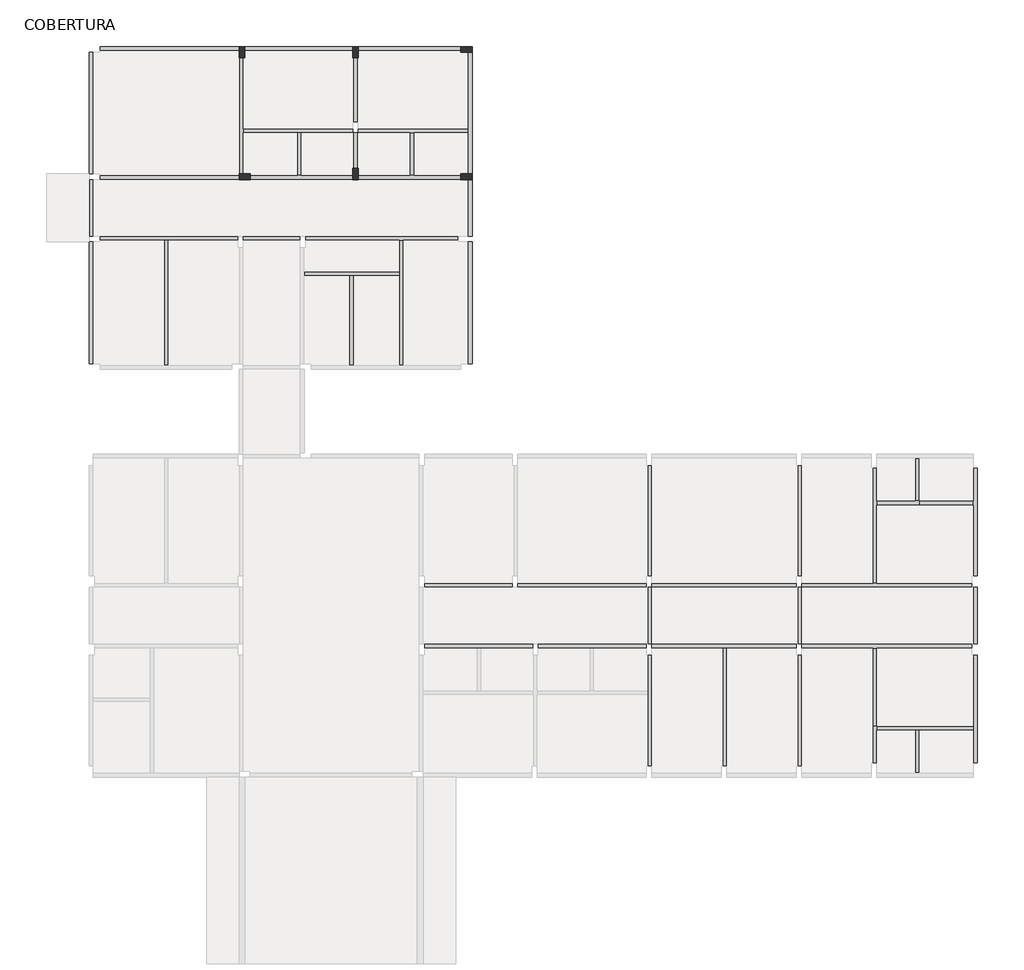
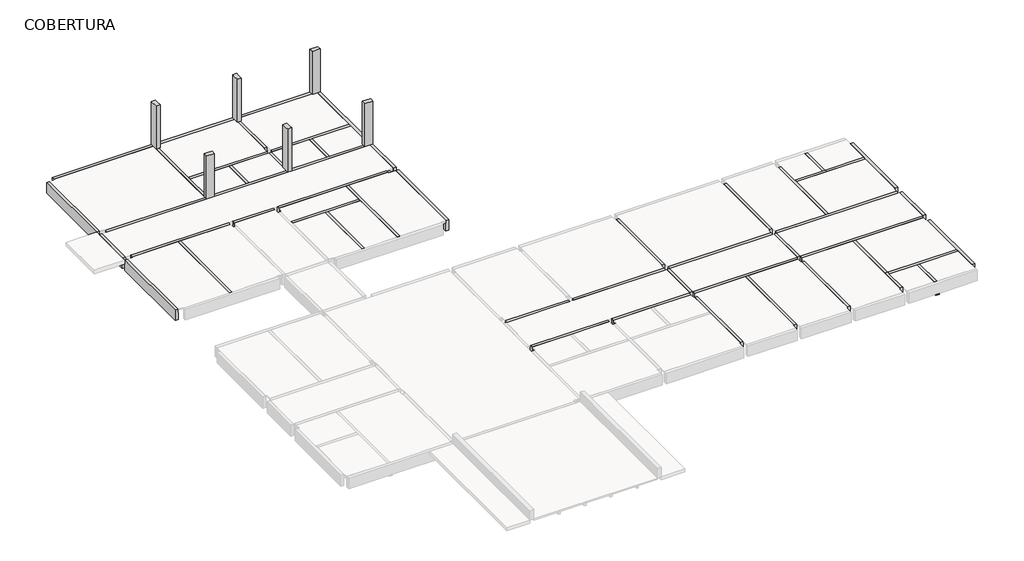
# One storey, part 5 of 5: 28 beams, 6 columns.
"""IFC4 building model written with IfcOpenShell, lengths in millimetres."""

from ifc_helpers import new_model, si_unit, origin, place, context, project, spatial, faceted_brep, element, save

model = new_model("IFC4")

# Units and contexts
model_context = context("Model", 3, world=origin())
ifc_project = project(units=[si_unit("LENGTHUNIT", "METRE", prefix="MILLI")], contexts=[model_context])

# Site, building, storey
site = spatial("IfcSite", under=ifc_project)
building = spatial("IfcBuilding", under=site)
storey = spatial("IfcBuildingStorey", under=building, Name="COBERTURA", Elevation=4800.0)

# Beams
placement = place(None, origin())
element("IfcBeam", 1, ObjectType="TQS - Viga retangular : 15,0 x 50,0", at=placement, inside=storey, context=model_context, shape_type="Brep", body=[
    faceted_brep([(9490.0, 25400.0, 4800.0), (9340.0, 25400.0, 4800.0), (9340.0, 23150.0, 4800.0), (9490.0, 23150.0, 4800.0), (9490.0, 25400.0, 4300.0), (9490.0, 25400.0, 4650.0), (9490.0, 25400.0, 4750.0), (9490.0, 23150.0, 4750.0), (9490.0, 23150.0, 4650.0), (9490.0, 23150.0, 4300.0), (9340.0, 25400.0, 4300.0), (9340.0, 23150.0, 4300.0), (9340.0, 25400.0, 4750.0), (9340.0, 25400.0, 4650.0), (9340.0, 23150.0, 4650.0), (9340.0, 23150.0, 4750.0)], [[[0, 1, 2, 3]], [[4, 5, 6, 0, 3, 7, 8, 9]], [[10, 4, 9, 11]], [[1, 12, 13, 10, 11, 14, 15, 2]], [[1, 0, 6, 5, 4, 10, 13, 12]], [[3, 2, 15, 14, 11, 9, 8, 7]]]),
    faceted_brep([(9490.0, 21500.0, 4800.0), (9340.0, 21500.0, 4800.0), (9340.0, 21500.0, 4750.0), (9340.0, 21500.0, 4650.0), (9340.0, 21500.0, 4300.0), (9490.0, 21500.0, 4300.0), (9490.0, 21500.0, 4650.0), (9490.0, 21500.0, 4750.0), (9340.0, 22750.0, 4800.0), (9490.0, 22750.0, 4800.0), (9490.0, 22750.0, 4750.0), (9490.0, 22750.0, 4300.0), (9340.0, 22750.0, 4300.0), (9340.0, 22750.0, 4750.0)], [[[0, 1, 2, 3, 4, 5, 6, 7]], [[8, 9, 10, 11, 12, 13]], [[1, 0, 9, 8]], [[0, 7, 6, 5, 11, 10, 9]], [[5, 4, 12, 11]], [[4, 3, 2, 1, 8, 13, 12]]]),
])
element("IfcBeam", 2, ObjectType="TQS - Viga retangular : 15,0 x 50,0", at=placement, inside=storey, context=model_context, shape_type="Brep", body=[
    faceted_brep([(7350.0, 21250.0, 4800.0), (7500.0, 21250.0, 4800.0), (7500.0, 22750.0, 4800.0), (7350.0, 22750.0, 4800.0), (7500.0, 21250.0, 4750.0), (7500.0, 21250.0, 4300.0), (7500.0, 22750.0, 4300.0), (7500.0, 22750.0, 4750.0), (7350.0, 21250.0, 4300.0), (7350.0, 22750.0, 4300.0), (7350.0, 21250.0, 4750.0), (7350.0, 22750.0, 4750.0)], [[[0, 1, 2, 3]], [[1, 4, 5, 6, 7, 2]], [[5, 8, 9, 6]], [[8, 10, 0, 3, 11, 9]], [[1, 0, 10, 8, 5, 4]], [[3, 2, 7, 6, 9, 11]]]),
])
element("IfcBeam", 3, ObjectType="TQS - Viga retangular : 15,0 x 50,0", at=placement, inside=storey, context=model_context, shape_type="Brep", body=[
    faceted_brep([(11330.0, 21250.0, 4800.0), (11480.0, 21250.0, 4800.0), (11480.0, 22750.0, 4800.0), (11330.0, 22750.0, 4800.0), (11480.0, 21250.0, 4750.0), (11480.0, 21250.0, 4300.0), (11480.0, 22750.0, 4300.0), (11480.0, 22750.0, 4750.0), (11330.0, 21250.0, 4300.0), (11330.0, 22750.0, 4300.0), (11330.0, 21250.0, 4750.0), (11330.0, 22750.0, 4750.0)], [[[0, 1, 2, 3]], [[1, 4, 5, 6, 7, 2]], [[5, 8, 9, 6]], [[8, 10, 0, 3, 11, 9]], [[1, 0, 10, 8, 5, 4]], [[3, 2, 7, 6, 9, 11]]]),
])
element("IfcBeam", 4, ObjectType="TQS - Viga retangular : 15,0 x 50,0", at=placement, inside=storey, context=model_context, shape_type="Brep", body=[
    faceted_brep([(25030.0, 400.0, 4800.0), (25180.0, 400.0, 4800.0), (25180.0, 4300.0, 4800.0), (25030.0, 4300.0, 4800.0), (25180.0, 400.0, 4300.0), (25180.0, 4300.0, 4300.0), (25030.0, 400.0, 4300.0), (25030.0, 4300.0, 4300.0), (25030.0, 400.0, 4650.0), (25030.0, 400.0, 4750.0), (25030.0, 4300.0, 4750.0), (25030.0, 4300.0, 4650.0)], [[[0, 1, 2, 3]], [[1, 4, 5, 2]], [[4, 6, 7, 5]], [[6, 8, 9, 0, 3, 10, 11, 7]], [[1, 0, 9, 8, 6, 4]], [[3, 2, 5, 7, 11, 10]]]),
    faceted_brep([(25030.0, 11000.0, 4800.0), (25180.0, 11000.0, 4800.0), (25180.0, 11000.0, 4300.0), (25030.0, 11000.0, 4300.0), (25030.0, 11000.0, 4650.0), (25030.0, 11000.0, 4750.0), (25030.0, 7100.0, 4800.0), (25180.0, 7100.0, 4800.0), (25180.0, 7100.0, 4300.0), (25030.0, 7100.0, 4300.0), (25030.0, 7100.0, 4650.0), (25030.0, 7100.0, 4750.0)], [[[0, 1, 2, 3, 4, 5]], [[1, 0, 6, 7]], [[2, 1, 7, 8]], [[3, 2, 8, 9]], [[0, 5, 4, 3, 9, 10, 11, 6]], [[7, 6, 11, 10, 9, 8]]]),
    faceted_brep([(25180.0, 4700.0, 4800.0), (25030.0, 4700.0, 4800.0), (25030.0, 4700.0, 4750.0), (25030.0, 4700.0, 4300.0), (25180.0, 4700.0, 4300.0), (25180.0, 4700.0, 4750.0), (25030.0, 6700.0, 4800.0), (25180.0, 6700.0, 4800.0), (25180.0, 6700.0, 4750.0), (25180.0, 6700.0, 4300.0), (25030.0, 6700.0, 4300.0), (25030.0, 6700.0, 4750.0)], [[[0, 1, 2, 3, 4, 5]], [[6, 7, 8, 9, 10, 11]], [[1, 0, 7, 6]], [[0, 5, 4, 9, 8, 7]], [[4, 3, 10, 9]], [[3, 2, 1, 6, 11, 10]]]),
])
element("IfcBeam", 5, ObjectType="TQS - Viga retangular : 15,0 x 50,0", at=placement, inside=storey, context=model_context, shape_type="Brep", body=[
    faceted_brep([(2800.0, 18950.0, 4800.0), (2650.0, 18950.0, 4800.0), (2650.0, 14550.0, 4800.0), (2800.0, 14550.0, 4800.0), (2800.0, 18950.0, 4300.0), (2800.0, 18950.0, 4650.0), (2800.0, 18950.0, 4750.0), (2800.0, 14550.0, 4750.0), (2800.0, 14550.0, 4300.0), (2650.0, 18950.0, 4300.0), (2650.0, 14550.0, 4300.0), (2650.0, 18950.0, 4750.0), (2650.0, 18950.0, 4650.0), (2650.0, 14550.0, 4750.0)], [[[0, 1, 2, 3]], [[4, 5, 6, 0, 3, 7, 8]], [[9, 4, 8, 10]], [[1, 11, 12, 9, 10, 13, 2]], [[1, 0, 6, 5, 4, 9, 12, 11]], [[3, 2, 13, 10, 8, 7]]]),
])
element("IfcBeam", 6, ObjectType="TQS - Viga retangular : 15,0 x 55,0", at=placement, inside=storey, context=model_context, shape_type="Brep", body=[
    faceted_brep([(13130.0, 25650.0, 4800.0), (13130.0, 25800.0, 4800.0), (9515.0, 25800.0, 4800.0), (9515.0, 25650.0, 4800.0), (13130.0, 25650.0, 4250.0), (13130.0, 25650.0, 4650.0), (13130.0, 25650.0, 4750.0), (9515.0, 25650.0, 4750.0), (9515.0, 25650.0, 4650.0), (9515.0, 25650.0, 4250.0), (13130.0, 25800.0, 4250.0), (9515.0, 25800.0, 4250.0)], [[[0, 1, 2, 3]], [[4, 5, 6, 0, 3, 7, 8, 9]], [[10, 4, 9, 11]], [[1, 10, 11, 2]], [[1, 0, 6, 5, 4, 10]], [[3, 2, 11, 9, 8, 7]]]),
    faceted_brep([(5300.0, 25800.0, 4800.0), (5300.0, 25650.0, 4800.0), (5300.0, 25650.0, 4750.0), (5300.0, 25650.0, 4250.0), (5300.0, 25800.0, 4250.0), (400.0, 25800.0, 4800.0), (400.0, 25650.0, 4800.0), (400.0, 25650.0, 4750.0), (400.0, 25650.0, 4650.0), (400.0, 25650.0, 4250.0), (400.0, 25800.0, 4250.0)], [[[0, 1, 2, 3, 4]], [[1, 0, 5, 6]], [[3, 2, 1, 6, 7, 8, 9]], [[4, 3, 9, 10]], [[0, 4, 10, 5]], [[6, 5, 10, 9, 8, 7]]]),
    faceted_brep([(5500.0, 25650.0, 4800.0), (5500.0, 25800.0, 4800.0), (5500.0, 25800.0, 4250.0), (5500.0, 25650.0, 4250.0), (5500.0, 25650.0, 4750.0), (9315.0, 25800.0, 4800.0), (9315.0, 25650.0, 4800.0), (9315.0, 25650.0, 4750.0), (9315.0, 25650.0, 4650.0), (9315.0, 25650.0, 4250.0), (9315.0, 25800.0, 4250.0)], [[[0, 1, 2, 3, 4]], [[5, 6, 7, 8, 9, 10]], [[1, 0, 6, 5]], [[0, 4, 3, 9, 8, 7, 6]], [[3, 2, 10, 9]], [[2, 1, 5, 10]]]),
])
element("IfcBeam", 7, ObjectType="TQS - Viga retangular : 15,0 x 55,0", at=placement, inside=storey, context=model_context, shape_type="Brep", body=[
    faceted_brep([(13130.0, 21100.0, 4800.0), (13130.0, 21250.0, 4800.0), (11480.0, 21250.0, 4800.0), (11330.0, 21250.0, 4800.0), (9515.0, 21250.0, 4800.0), (9515.0, 21100.0, 4800.0), (13130.0, 21100.0, 4250.0), (9515.0, 21100.0, 4250.0), (13130.0, 21250.0, 4250.0), (9515.0, 21250.0, 4250.0), (13130.0, 21250.0, 4750.0), (9515.0, 21250.0, 4750.0)], [[[0, 1, 2, 3, 4, 5]], [[6, 0, 5, 7]], [[8, 6, 7, 9]], [[1, 10, 8, 9, 11, 4, 3, 2]], [[1, 0, 6, 8, 10]], [[5, 4, 11, 9, 7]]]),
    faceted_brep([(400.0, 21100.0, 4800.0), (400.0, 21250.0, 4800.0), (400.0, 21250.0, 4750.0), (400.0, 21250.0, 4650.0), (400.0, 21250.0, 4250.0), (400.0, 21100.0, 4250.0), (5300.0, 21250.0, 4800.0), (5300.0, 21100.0, 4800.0), (5300.0, 21100.0, 4250.0), (5300.0, 21250.0, 4250.0), (5300.0, 21250.0, 4750.0)], [[[0, 1, 2, 3, 4, 5]], [[6, 7, 8, 9, 10]], [[1, 0, 7, 6]], [[0, 5, 8, 7]], [[5, 4, 9, 8]], [[4, 3, 2, 1, 6, 10, 9]]]),
    faceted_brep([(5700.0, 21100.0, 4800.0), (5700.0, 21250.0, 4800.0), (5700.0, 21250.0, 4750.0), (5700.0, 21250.0, 4250.0), (5700.0, 21100.0, 4250.0), (9315.0, 21250.0, 4800.0), (9315.0, 21100.0, 4800.0), (9315.0, 21100.0, 4250.0), (9315.0, 21250.0, 4250.0), (9315.0, 21250.0, 4750.0), (7500.0, 21250.0, 4800.0), (7350.0, 21250.0, 4800.0)], [[[0, 1, 2, 3, 4]], [[5, 6, 7, 8, 9]], [[1, 0, 6, 5, 10, 11]], [[0, 4, 7, 6]], [[4, 3, 8, 7]], [[3, 2, 1, 11, 10, 5, 9, 8]]]),
])
element("IfcBeam", 8, ObjectType="TQS - Viga retangular : 15,0 x 55,0", at=placement, inside=storey, context=model_context, shape_type="Brep", body=[
    faceted_brep([(5300.0, 21300.0, 4800.0), (5450.0, 21300.0, 4800.0), (5450.0, 22750.0, 4800.0), (5450.0, 22900.0, 4800.0), (5450.0, 25400.0, 4800.0), (5300.0, 25400.0, 4800.0), (5450.0, 21300.0, 4750.0), (5450.0, 21300.0, 4650.0), (5450.0, 21300.0, 4250.0), (5450.0, 22750.0, 4250.0), (5450.0, 22900.0, 4250.0), (5450.0, 25400.0, 4250.0), (5450.0, 25400.0, 4650.0), (5450.0, 25400.0, 4750.0), (5300.0, 21300.0, 4250.0), (5300.0, 25400.0, 4250.0)], [[[0, 1, 2, 3, 4, 5]], [[1, 6, 7, 8, 9, 10, 11, 12, 13, 4, 3, 2]], [[8, 14, 15, 11, 10, 9]], [[14, 0, 5, 15]], [[1, 0, 14, 8, 7, 6]], [[5, 4, 13, 12, 11, 15]]]),
])
element("IfcBeam", 9, ObjectType="TQS - Viga retangular : 15,0 x 55,0", at=placement, inside=storey, context=model_context, shape_type="Brep", body=[
    faceted_brep([(13380.0, 21300.0, 4800.0), (13530.0, 21300.0, 4800.0), (13530.0, 25600.0, 4800.0), (13380.0, 25600.0, 4800.0), (13380.0, 22900.0, 4800.0), (13380.0, 22750.0, 4800.0), (13530.0, 21300.0, 4250.0), (13530.0, 25600.0, 4250.0), (13380.0, 21300.0, 4250.0), (13380.0, 22750.0, 4250.0), (13380.0, 22900.0, 4250.0), (13380.0, 25600.0, 4250.0), (13380.0, 21300.0, 4650.0), (13380.0, 21300.0, 4750.0), (13380.0, 25600.0, 4750.0)], [[[0, 1, 2, 3, 4, 5]], [[1, 6, 7, 2]], [[6, 8, 9, 10, 11, 7]], [[8, 12, 13, 0, 5, 4, 3, 14, 11, 10, 9]], [[1, 0, 13, 12, 8, 6]], [[3, 2, 7, 11, 14]]]),
    faceted_brep([(13530.0, 14600.0, 4800.0), (13380.0, 14600.0, 4800.0), (13380.0, 14600.0, 4750.0), (13380.0, 14600.0, 4650.0), (13380.0, 14600.0, 4250.0), (13530.0, 14600.0, 4250.0), (13380.0, 18900.0, 4800.0), (13530.0, 18900.0, 4800.0), (13530.0, 18900.0, 4250.0), (13380.0, 18900.0, 4250.0), (13380.0, 18900.0, 4650.0), (13380.0, 18900.0, 4750.0)], [[[0, 1, 2, 3, 4, 5]], [[6, 7, 8, 9, 10, 11]], [[1, 0, 7, 6]], [[0, 5, 8, 7]], [[5, 4, 9, 8]], [[4, 3, 2, 1, 6, 11, 10, 9]]]),
    faceted_brep([(13530.0, 19100.0, 4800.0), (13380.0, 19100.0, 4800.0), (13380.0, 19100.0, 4750.0), (13380.0, 19100.0, 4650.0), (13380.0, 19100.0, 4250.0), (13530.0, 19100.0, 4250.0), (13380.0, 21100.0, 4800.0), (13530.0, 21100.0, 4800.0), (13530.0, 21100.0, 4250.0), (13380.0, 21100.0, 4250.0), (13380.0, 21100.0, 4650.0), (13380.0, 21100.0, 4750.0)], [[[0, 1, 2, 3, 4, 5]], [[6, 7, 8, 9, 10, 11]], [[1, 0, 7, 6]], [[0, 5, 8, 7]], [[5, 4, 9, 8]], [[4, 3, 2, 1, 6, 11, 10, 9]]]),
])
element("IfcBeam", 10, ObjectType="TQS - Viga retangular : 15,0 x 55,0", at=placement, inside=storey, context=model_context, shape_type="Brep", body=[
    faceted_brep([(9315.0, 22750.0, 4800.0), (9315.0, 22900.0, 4800.0), (5450.0, 22900.0, 4800.0), (5450.0, 22750.0, 4800.0), (7350.0, 22750.0, 4800.0), (7500.0, 22750.0, 4800.0), (9315.0, 22750.0, 4250.0), (5450.0, 22750.0, 4750.0), (5450.0, 22750.0, 4650.0), (5450.0, 22750.0, 4250.0), (9315.0, 22900.0, 4250.0), (5450.0, 22900.0, 4250.0), (9315.0, 22900.0, 4750.0), (9315.0, 22900.0, 4650.0), (5450.0, 22900.0, 4750.0)], [[[0, 1, 2, 3, 4, 5]], [[6, 0, 5, 4, 3, 7, 8, 9]], [[10, 6, 9, 11]], [[1, 12, 13, 10, 11, 14, 2]], [[1, 0, 6, 10, 13, 12]], [[3, 2, 14, 11, 9, 8, 7]]]),
    faceted_brep([(9515.0, 22750.0, 4800.0), (9515.0, 22900.0, 4800.0), (9515.0, 22900.0, 4750.0), (9515.0, 22900.0, 4650.0), (9515.0, 22900.0, 4250.0), (9515.0, 22750.0, 4250.0), (11330.0, 22750.0, 4800.0), (11480.0, 22750.0, 4800.0), (13380.0, 22750.0, 4800.0), (13380.0, 22900.0, 4800.0), (13380.0, 22750.0, 4250.0), (13380.0, 22750.0, 4650.0), (13380.0, 22750.0, 4750.0), (13380.0, 22900.0, 4250.0), (13380.0, 22900.0, 4750.0)], [[[0, 1, 2, 3, 4, 5]], [[1, 0, 6, 7, 8, 9]], [[0, 5, 10, 11, 12, 8, 7, 6]], [[5, 4, 13, 10]], [[4, 3, 2, 1, 9, 14, 13]], [[9, 8, 12, 11, 10, 13, 14]]]),
])
element("IfcBeam", 11, ObjectType="TQS - Viga retangular : 15,0 x 55,0", at=placement, inside=storey, context=model_context, shape_type="Brep", body=[
    faceted_brep([(7650.0, 19100.0, 4800.0), (7650.0, 18950.0, 4800.0), (10950.0, 18950.0, 4800.0), (11100.0, 18950.0, 4800.0), (13030.0, 18950.0, 4800.0), (13030.0, 19100.0, 4800.0), (7650.0, 18950.0, 4750.0), (7650.0, 18950.0, 4250.0), (10950.0, 18950.0, 4250.0), (11100.0, 18950.0, 4250.0), (13030.0, 18950.0, 4250.0), (13030.0, 18950.0, 4650.0), (13030.0, 18950.0, 4750.0), (7650.0, 19100.0, 4250.0), (13030.0, 19100.0, 4250.0)], [[[0, 1, 2, 3, 4, 5]], [[1, 6, 7, 8, 9, 10, 11, 12, 4, 3, 2]], [[7, 13, 14, 10, 9, 8]], [[13, 0, 5, 14]], [[1, 0, 13, 7, 6]], [[5, 4, 12, 11, 10, 14]]]),
    faceted_brep([(400.0, 18950.0, 4800.0), (400.0, 19100.0, 4800.0), (400.0, 19100.0, 4250.0), (400.0, 18950.0, 4250.0), (400.0, 18950.0, 4650.0), (400.0, 18950.0, 4750.0), (5250.0, 19100.0, 4800.0), (5250.0, 18950.0, 4800.0), (5250.0, 18950.0, 4750.0), (5250.0, 18950.0, 4650.0), (5250.0, 18950.0, 4250.0), (5250.0, 19100.0, 4250.0), (2650.0, 18950.0, 4800.0), (2800.0, 18950.0, 4800.0)], [[[0, 1, 2, 3, 4, 5]], [[6, 7, 8, 9, 10, 11]], [[1, 0, 12, 13, 7, 6]], [[0, 5, 4, 3, 10, 9, 8, 7, 13, 12]], [[3, 2, 11, 10]], [[2, 1, 6, 11]]]),
    faceted_brep([(5450.0, 18950.0, 4800.0), (5450.0, 19100.0, 4800.0), (5450.0, 19100.0, 4750.0), (5450.0, 19100.0, 4650.0), (5450.0, 19100.0, 4250.0), (5450.0, 18950.0, 4250.0), (5450.0, 18950.0, 4650.0), (5450.0, 18950.0, 4750.0), (7450.0, 19100.0, 4800.0), (7450.0, 18950.0, 4800.0), (7450.0, 18950.0, 4750.0), (7450.0, 18950.0, 4650.0), (7450.0, 18950.0, 4250.0), (7450.0, 19100.0, 4250.0)], [[[0, 1, 2, 3, 4, 5, 6, 7]], [[8, 9, 10, 11, 12, 13]], [[1, 0, 9, 8]], [[0, 7, 6, 5, 12, 11, 10, 9]], [[5, 4, 13, 12]], [[4, 3, 2, 1, 8, 13]]]),
])
element("IfcBeam", 12, ObjectType="TQS - Viga retangular : 15,0 x 55,0", at=placement, inside=storey, context=model_context, shape_type="Brep", body=[
    faceted_brep([(19730.0, 400.0, 4800.0), (19880.0, 400.0, 4800.0), (19880.0, 4300.0, 4800.0), (19730.0, 4300.0, 4800.0), (19730.0, 3050.0, 4800.0), (19730.0, 2900.0, 4800.0), (19880.0, 400.0, 4250.0), (19880.0, 4300.0, 4250.0), (19730.0, 400.0, 4250.0), (19730.0, 2900.0, 4250.0), (19730.0, 3050.0, 4250.0), (19730.0, 4300.0, 4250.0), (19730.0, 400.0, 4650.0), (19730.0, 400.0, 4750.0), (19730.0, 4300.0, 4750.0), (19730.0, 4300.0, 4650.0)], [[[0, 1, 2, 3, 4, 5]], [[1, 6, 7, 2]], [[6, 8, 9, 10, 11, 7]], [[8, 12, 13, 0, 5, 4, 3, 14, 15, 11, 10, 9]], [[1, 0, 13, 12, 8, 6]], [[3, 2, 7, 11, 15, 14]]]),
    faceted_brep([(19730.0, 11000.0, 4800.0), (19880.0, 11000.0, 4800.0), (19880.0, 11000.0, 4250.0), (19730.0, 11000.0, 4250.0), (19730.0, 11000.0, 4650.0), (19730.0, 11000.0, 4750.0), (19730.0, 7100.0, 4800.0), (19880.0, 7100.0, 4800.0), (19880.0, 7100.0, 4250.0), (19730.0, 7100.0, 4250.0), (19730.0, 7100.0, 4650.0), (19730.0, 7100.0, 4750.0)], [[[0, 1, 2, 3, 4, 5]], [[1, 0, 6, 7]], [[2, 1, 7, 8]], [[3, 2, 8, 9]], [[0, 5, 4, 3, 9, 10, 11, 6]], [[7, 6, 11, 10, 9, 8]]]),
    faceted_brep([(19880.0, 4700.0, 4800.0), (19730.0, 4700.0, 4800.0), (19730.0, 4700.0, 4750.0), (19730.0, 4700.0, 4650.0), (19730.0, 4700.0, 4250.0), (19880.0, 4700.0, 4250.0), (19880.0, 4700.0, 4750.0), (19730.0, 6700.0, 4800.0), (19880.0, 6700.0, 4800.0), (19880.0, 6700.0, 4750.0), (19880.0, 6700.0, 4250.0), (19730.0, 6700.0, 4250.0), (19730.0, 6700.0, 4650.0), (19730.0, 6700.0, 4750.0)], [[[0, 1, 2, 3, 4, 5, 6]], [[7, 8, 9, 10, 11, 12, 13]], [[1, 0, 8, 7]], [[0, 6, 5, 10, 9, 8]], [[5, 4, 11, 10]], [[4, 3, 2, 1, 7, 13, 12, 11]]]),
])
element("IfcBeam", 13, ObjectType="TQS - Viga retangular : 15,0 x 55,0", at=placement, inside=storey, context=model_context, shape_type="Brep", body=[
    faceted_brep([(11100.0, 18950.0, 4800.0), (10950.0, 18950.0, 4800.0), (10950.0, 17850.0, 4800.0), (10950.0, 17700.0, 4800.0), (10950.0, 14550.0, 4800.0), (11100.0, 14550.0, 4800.0), (11100.0, 18950.0, 4250.0), (11100.0, 18950.0, 4650.0), (11100.0, 18950.0, 4750.0), (11100.0, 14550.0, 4750.0), (11100.0, 14550.0, 4250.0), (10950.0, 18950.0, 4250.0), (10950.0, 14550.0, 4250.0), (10950.0, 17700.0, 4250.0), (10950.0, 17850.0, 4250.0), (10950.0, 18950.0, 4750.0), (10950.0, 14550.0, 4750.0)], [[[0, 1, 2, 3, 4, 5]], [[6, 7, 8, 0, 5, 9, 10]], [[11, 6, 10, 12, 13, 14]], [[1, 15, 11, 14, 13, 12, 16, 4, 3, 2]], [[1, 0, 8, 7, 6, 11, 15]], [[5, 4, 16, 12, 10, 9]]]),
])
element("IfcBeam", 14, ObjectType="TQS - Viga retangular : 15,0 x 55,0", at=placement, inside=storey, context=model_context, shape_type="Brep", body=[
    faceted_brep([(7600.0, 17850.0, 4800.0), (7600.0, 17700.0, 4800.0), (9200.0, 17700.0, 4800.0), (9350.0, 17700.0, 4800.0), (10950.0, 17700.0, 4800.0), (10950.0, 17850.0, 4800.0), (7600.0, 17700.0, 4750.0), (7600.0, 17700.0, 4250.0), (9200.0, 17700.0, 4250.0), (9350.0, 17700.0, 4250.0), (10950.0, 17700.0, 4250.0), (10950.0, 17700.0, 4750.0), (7600.0, 17850.0, 4250.0), (10950.0, 17850.0, 4250.0), (7600.0, 17850.0, 4650.0), (7600.0, 17850.0, 4750.0), (10950.0, 17850.0, 4750.0)], [[[0, 1, 2, 3, 4, 5]], [[1, 6, 7, 8, 9, 10, 11, 4, 3, 2]], [[7, 12, 13, 10, 9, 8]], [[12, 14, 15, 0, 5, 16, 13]], [[1, 0, 15, 14, 12, 7, 6]], [[5, 4, 11, 10, 13, 16]]]),
])
element("IfcBeam", 15, ObjectType="TQS - Viga retangular : 15,0 x 55,0", at=placement, inside=storey, context=model_context, shape_type="Brep", body=[
    faceted_brep([(9200.0, 14550.0, 4800.0), (9350.0, 14550.0, 4800.0), (9350.0, 17700.0, 4800.0), (9200.0, 17700.0, 4800.0), (9350.0, 14550.0, 4750.0), (9350.0, 14550.0, 4250.0), (9350.0, 17700.0, 4250.0), (9350.0, 17700.0, 4750.0), (9200.0, 14550.0, 4250.0), (9200.0, 17700.0, 4250.0), (9200.0, 14550.0, 4750.0), (9200.0, 17700.0, 4750.0)], [[[0, 1, 2, 3]], [[1, 4, 5, 6, 7, 2]], [[5, 8, 9, 6]], [[8, 10, 0, 3, 11, 9]], [[1, 0, 10, 8, 5, 4]], [[3, 2, 7, 6, 9, 11]]]),
])
element("IfcBeam", 16, ObjectType="TQS - Viga retangular : 15,0 x 55,0", at=placement, inside=storey, context=model_context, shape_type="Brep", body=[
    faceted_brep([(29330.0, 11250.0, 4800.0), (29180.0, 11250.0, 4800.0), (29180.0, 9750.0, 4800.0), (29330.0, 9750.0, 4800.0), (29330.0, 11250.0, 4250.0), (29330.0, 11250.0, 4650.0), (29330.0, 11250.0, 4750.0), (29330.0, 9750.0, 4750.0), (29330.0, 9750.0, 4250.0), (29180.0, 11250.0, 4250.0), (29180.0, 9750.0, 4250.0), (29180.0, 11250.0, 4750.0), (29180.0, 11250.0, 4650.0), (29180.0, 9750.0, 4650.0), (29180.0, 9750.0, 4750.0)], [[[0, 1, 2, 3]], [[4, 5, 6, 0, 3, 7, 8]], [[9, 4, 8, 10]], [[1, 11, 12, 9, 10, 13, 14, 2]], [[1, 0, 6, 5, 4, 9, 12, 11]], [[3, 2, 14, 13, 10, 8, 7]]]),
])
element("IfcBeam", 17, ObjectType="TQS - Viga retangular : 15,0 x 55,0", at=placement, inside=storey, context=model_context, shape_type="Brep", body=[
    faceted_brep([(0.0, 21300.0, 4800.0), (150.0, 21300.0, 4800.0), (150.0, 25600.0, 4800.0), (0.0, 25600.0, 4800.0), (150.0, 21300.0, 4750.0), (150.0, 21300.0, 4650.0), (150.0, 21300.0, 4250.0), (150.0, 25600.0, 4250.0), (150.0, 25600.0, 4750.0), (0.0, 21300.0, 4250.0), (0.0, 25600.0, 4250.0)], [[[0, 1, 2, 3]], [[1, 4, 5, 6, 7, 8, 2]], [[6, 9, 10, 7]], [[9, 0, 3, 10]], [[1, 0, 9, 6, 5, 4]], [[3, 2, 8, 7, 10]]]),
    faceted_brep([(150.0, 14600.0, 4800.0), (0.0, 14600.0, 4800.0), (0.0, 14600.0, 4250.0), (150.0, 14600.0, 4250.0), (150.0, 14600.0, 4650.0), (150.0, 14600.0, 4750.0), (0.0, 18900.0, 4800.0), (150.0, 18900.0, 4800.0), (150.0, 18900.0, 4750.0), (150.0, 18900.0, 4650.0), (150.0, 18900.0, 4250.0), (0.0, 18900.0, 4250.0)], [[[0, 1, 2, 3, 4, 5]], [[6, 7, 8, 9, 10, 11]], [[1, 0, 7, 6]], [[0, 5, 4, 3, 10, 9, 8, 7]], [[3, 2, 11, 10]], [[2, 1, 6, 11]]]),
    faceted_brep([(150.0, 19100.0, 4800.0), (0.0, 19100.0, 4800.0), (0.0, 19100.0, 4250.0), (150.0, 19100.0, 4250.0), (150.0, 19100.0, 4750.0), (0.0, 21100.0, 4800.0), (150.0, 21100.0, 4800.0), (150.0, 21100.0, 4750.0), (150.0, 21100.0, 4250.0), (0.0, 21100.0, 4250.0)], [[[0, 1, 2, 3, 4]], [[5, 6, 7, 8, 9]], [[1, 0, 6, 5]], [[0, 4, 3, 8, 7, 6]], [[3, 2, 9, 8]], [[2, 1, 5, 9]]]),
])
element("IfcBeam", 18, ObjectType="TQS - Viga retangular : 15,0 x 60,0", at=placement, inside=storey, context=model_context, shape_type="Brep", body=[
    faceted_brep([(11850.0, 4700.0, 4800.0), (11850.0, 4550.0, 4800.0), (13700.0, 4550.0, 4800.0), (13850.0, 4550.0, 4800.0), (15665.0, 4550.0, 4800.0), (15665.0, 4700.0, 4800.0), (11850.0, 4550.0, 4750.0), (11850.0, 4550.0, 4200.0), (15665.0, 4550.0, 4200.0), (15665.0, 4550.0, 4750.0), (11850.0, 4700.0, 4200.0), (15665.0, 4700.0, 4200.0)], [[[0, 1, 2, 3, 4, 5]], [[1, 6, 7, 8, 9, 4, 3, 2]], [[7, 10, 11, 8]], [[10, 0, 5, 11]], [[1, 0, 10, 7, 6]], [[5, 4, 9, 8, 11]]]),
    faceted_brep([(31180.0, 4700.0, 4800.0), (31180.0, 4550.0, 4800.0), (31180.0, 4550.0, 4750.0), (31180.0, 4550.0, 4200.0), (31180.0, 4700.0, 4200.0), (25180.0, 4550.0, 4800.0), (25180.0, 4700.0, 4800.0), (25180.0, 4700.0, 4750.0), (25180.0, 4700.0, 4200.0), (25180.0, 4550.0, 4200.0), (25180.0, 4550.0, 4650.0), (25180.0, 4550.0, 4750.0), (27680.0, 4550.0, 4800.0), (27830.0, 4550.0, 4800.0), (27680.0, 4550.0, 4200.0), (27830.0, 4550.0, 4200.0)], [[[0, 1, 2, 3, 4]], [[5, 6, 7, 8, 9, 10, 11]], [[1, 0, 6, 5, 12, 13]], [[3, 2, 1, 13, 12, 5, 11, 10, 9, 14, 15]], [[4, 3, 15, 14, 9, 8]], [[0, 4, 8, 7, 6]]]),
    faceted_brep([(15865.0, 4550.0, 4800.0), (15865.0, 4700.0, 4800.0), (15865.0, 4700.0, 4200.0), (15865.0, 4550.0, 4200.0), (15865.0, 4550.0, 4750.0), (19680.0, 4700.0, 4800.0), (19680.0, 4550.0, 4800.0), (19680.0, 4550.0, 4750.0), (19680.0, 4550.0, 4200.0), (19680.0, 4700.0, 4200.0), (17680.0, 4550.0, 4800.0), (17830.0, 4550.0, 4800.0)], [[[0, 1, 2, 3, 4]], [[5, 6, 7, 8, 9]], [[1, 0, 10, 11, 6, 5]], [[0, 4, 3, 8, 7, 6, 11, 10]], [[3, 2, 9, 8]], [[2, 1, 5, 9]]]),
    faceted_brep([(19880.0, 4700.0, 4800.0), (19880.0, 4550.0, 4800.0), (22380.0, 4550.0, 4800.0), (22530.0, 4550.0, 4800.0), (24980.0, 4550.0, 4800.0), (24980.0, 4700.0, 4800.0), (19880.0, 4550.0, 4750.0), (19880.0, 4550.0, 4650.0), (19880.0, 4550.0, 4200.0), (22380.0, 4550.0, 4200.0), (22530.0, 4550.0, 4200.0), (24980.0, 4550.0, 4200.0), (24980.0, 4550.0, 4650.0), (24980.0, 4550.0, 4750.0), (19880.0, 4700.0, 4200.0), (24980.0, 4700.0, 4200.0), (19880.0, 4700.0, 4750.0)], [[[0, 1, 2, 3, 4, 5]], [[1, 6, 7, 8, 9, 10, 11, 12, 13, 4, 3, 2]], [[8, 14, 15, 11, 10, 9]], [[14, 16, 0, 5, 15]], [[1, 0, 16, 14, 8, 7, 6]], [[5, 4, 13, 12, 11, 15]]]),
])
element("IfcBeam", 19, ObjectType="TQS - Viga retangular : 15,0 x 60,0", at=placement, inside=storey, context=model_context, shape_type="Brep", body=[
    faceted_brep([(11850.0, 6850.0, 4800.0), (11850.0, 6700.0, 4800.0), (14950.0, 6700.0, 4800.0), (14950.0, 6850.0, 4800.0), (11850.0, 6700.0, 4200.0), (14950.0, 6700.0, 4200.0), (11850.0, 6850.0, 4200.0), (14950.0, 6850.0, 4200.0), (11850.0, 6850.0, 4750.0), (14950.0, 6850.0, 4750.0)], [[[0, 1, 2, 3]], [[1, 4, 5, 2]], [[4, 6, 7, 5]], [[6, 8, 0, 3, 9, 7]], [[1, 0, 8, 6, 4]], [[3, 2, 5, 7, 9]]]),
    faceted_brep([(31180.0, 6850.0, 4800.0), (31180.0, 6700.0, 4800.0), (31180.0, 6700.0, 4200.0), (31180.0, 6850.0, 4200.0), (31180.0, 6850.0, 4750.0), (25180.0, 6700.0, 4800.0), (25180.0, 6850.0, 4800.0), (25180.0, 6850.0, 4750.0), (25180.0, 6850.0, 4200.0), (25180.0, 6700.0, 4200.0), (25180.0, 6700.0, 4750.0), (27830.0, 6850.0, 4800.0), (27680.0, 6850.0, 4800.0), (27680.0, 6850.0, 4200.0), (27830.0, 6850.0, 4200.0)], [[[0, 1, 2, 3, 4]], [[5, 6, 7, 8, 9, 10]], [[1, 0, 11, 12, 6, 5]], [[2, 1, 5, 10, 9]], [[3, 2, 9, 8, 13, 14]], [[0, 4, 3, 14, 13, 8, 7, 6, 12, 11]]]),
    faceted_brep([(24980.0, 6850.0, 4800.0), (24980.0, 6700.0, 4800.0), (24980.0, 6700.0, 4200.0), (24980.0, 6850.0, 4200.0), (24980.0, 6850.0, 4650.0), (24980.0, 6850.0, 4750.0), (19880.0, 6700.0, 4800.0), (19880.0, 6850.0, 4800.0), (19880.0, 6850.0, 4750.0), (19880.0, 6850.0, 4200.0), (19880.0, 6700.0, 4200.0), (19880.0, 6700.0, 4750.0)], [[[0, 1, 2, 3, 4, 5]], [[6, 7, 8, 9, 10, 11]], [[1, 0, 7, 6]], [[2, 1, 6, 11, 10]], [[3, 2, 10, 9]], [[0, 5, 4, 3, 9, 8, 7]]]),
    faceted_brep([(19680.0, 6850.0, 4800.0), (19680.0, 6700.0, 4800.0), (19680.0, 6700.0, 4200.0), (19680.0, 6850.0, 4200.0), (19680.0, 6850.0, 4750.0), (15150.0, 6700.0, 4800.0), (15150.0, 6850.0, 4800.0), (15150.0, 6850.0, 4750.0), (15150.0, 6850.0, 4200.0), (15150.0, 6700.0, 4200.0)], [[[0, 1, 2, 3, 4]], [[5, 6, 7, 8, 9]], [[1, 0, 6, 5]], [[2, 1, 5, 9]], [[3, 2, 9, 8]], [[0, 4, 3, 8, 7, 6]]]),
])
element("IfcBeam", 20, ObjectType="TQS - Viga retangular : 15,0 x 60,0", at=placement, inside=storey, context=model_context, shape_type="Brep", body=[
    faceted_brep([(31380.0, 10900.0, 4800.0), (31230.0, 10900.0, 4800.0), (31230.0, 9750.0, 4800.0), (31230.0, 9600.0, 4800.0), (31230.0, 7100.0, 4800.0), (31380.0, 7100.0, 4800.0), (31380.0, 10900.0, 4200.0), (31380.0, 7100.0, 4200.0), (31230.0, 10900.0, 4200.0), (31230.0, 7100.0, 4200.0), (31230.0, 9600.0, 4200.0), (31230.0, 9750.0, 4200.0), (31230.0, 7100.0, 4650.0), (31230.0, 7100.0, 4750.0)], [[[0, 1, 2, 3, 4, 5]], [[6, 0, 5, 7]], [[8, 6, 7, 9, 10, 11]], [[1, 8, 11, 10, 9, 12, 13, 4, 3, 2]], [[1, 0, 6, 8]], [[5, 4, 13, 12, 9, 7]]]),
    faceted_brep([(31380.0, 500.0, 4800.0), (31230.0, 500.0, 4800.0), (31230.0, 500.0, 4200.0), (31380.0, 500.0, 4200.0), (31230.0, 4300.0, 4800.0), (31380.0, 4300.0, 4800.0), (31380.0, 4300.0, 4200.0), (31230.0, 4300.0, 4200.0), (31230.0, 4300.0, 4650.0), (31230.0, 4300.0, 4750.0), (31230.0, 1800.0, 4800.0), (31230.0, 1650.0, 4800.0), (31230.0, 1650.0, 4200.0), (31230.0, 1800.0, 4200.0)], [[[0, 1, 2, 3]], [[4, 5, 6, 7, 8, 9]], [[1, 0, 5, 4, 10, 11]], [[0, 3, 6, 5]], [[3, 2, 12, 13, 7, 6]], [[2, 1, 11, 10, 4, 9, 8, 7, 13, 12]]]),
    faceted_brep([(31380.0, 4700.0, 4800.0), (31230.0, 4700.0, 4800.0), (31230.0, 4700.0, 4750.0), (31230.0, 4700.0, 4200.0), (31380.0, 4700.0, 4200.0), (31230.0, 6700.0, 4800.0), (31380.0, 6700.0, 4800.0), (31380.0, 6700.0, 4200.0), (31230.0, 6700.0, 4200.0), (31230.0, 6700.0, 4750.0)], [[[0, 1, 2, 3, 4]], [[5, 6, 7, 8, 9]], [[1, 0, 6, 5]], [[0, 4, 7, 6]], [[4, 3, 8, 7]], [[3, 2, 1, 5, 9, 8]]]),
])
element("IfcBeam", 21, ObjectType="TQS - Viga retangular : 15,0 x 60,0", at=placement, inside=storey, context=model_context, shape_type="Brep", body=[
    faceted_brep([(22380.0, 400.0, 4800.0), (22530.0, 400.0, 4800.0), (22530.0, 4550.0, 4800.0), (22380.0, 4550.0, 4800.0), (22530.0, 400.0, 4200.0), (22530.0, 4550.0, 4200.0), (22530.0, 4550.0, 4650.0), (22530.0, 4550.0, 4750.0), (22380.0, 400.0, 4200.0), (22380.0, 4550.0, 4200.0), (22380.0, 400.0, 4650.0), (22380.0, 400.0, 4750.0), (22380.0, 4550.0, 4750.0), (22380.0, 4550.0, 4650.0)], [[[0, 1, 2, 3]], [[1, 4, 5, 6, 7, 2]], [[4, 8, 9, 5]], [[8, 10, 11, 0, 3, 12, 13, 9]], [[3, 2, 7, 6, 5, 9, 13, 12]], [[0, 11, 10, 8, 4, 1]]]),
])
element("IfcBeam", 22, ObjectType="TQS - Viga retangular : 15,0 x 60,0", at=placement, inside=storey, context=model_context, shape_type="Brep", body=[
    faceted_brep([(27680.0, 500.0, 4800.0), (27830.0, 500.0, 4800.0), (27830.0, 1650.0, 4800.0), (27830.0, 1800.0, 4800.0), (27680.0, 1800.0, 4800.0), (27830.0, 500.0, 4200.0), (27830.0, 1650.0, 4200.0), (27830.0, 1800.0, 4200.0), (27680.0, 500.0, 4200.0), (27680.0, 1800.0, 4200.0), (27680.0, 500.0, 4650.0), (27680.0, 500.0, 4750.0)], [[[0, 1, 2, 3, 4]], [[1, 5, 6, 7, 3, 2]], [[5, 8, 9, 7, 6]], [[8, 10, 11, 0, 4, 9]], [[0, 11, 10, 8, 5, 1]], [[4, 3, 7, 9]]]),
])
element("IfcBeam", 23, ObjectType="TQS - Viga retangular : 15,0 x 60,0", at=placement, inside=storey, context=model_context, shape_type="Brep", body=[
    faceted_brep([(27830.0, 4550.0, 4800.0), (27680.0, 4550.0, 4800.0), (27680.0, 1800.0, 4800.0), (27830.0, 1800.0, 4800.0), (27830.0, 4550.0, 4200.0), (27830.0, 4550.0, 4650.0), (27830.0, 4550.0, 4750.0), (27830.0, 1800.0, 4750.0), (27830.0, 1800.0, 4650.0), (27830.0, 1800.0, 4200.0), (27680.0, 4550.0, 4200.0), (27680.0, 1800.0, 4200.0), (27680.0, 4550.0, 4750.0), (27680.0, 4550.0, 4650.0)], [[[0, 1, 2, 3]], [[4, 5, 6, 0, 3, 7, 8, 9]], [[10, 4, 9, 11]], [[1, 12, 13, 10, 11, 2]], [[1, 0, 6, 5, 4, 10, 13, 12]], [[3, 2, 11, 9, 8, 7]]]),
])
element("IfcBeam", 24, ObjectType="TQS - Viga retangular : 15,0 x 60,0", at=placement, inside=storey, context=model_context, shape_type="Brep", body=[
    faceted_brep([(29180.0, 150.0, 4800.0), (29330.0, 150.0, 4800.0), (29330.0, 1650.0, 4800.0), (29180.0, 1650.0, 4800.0), (29330.0, 0.0, 4250.0), (29330.0, 0.0, 4200.0), (29330.0, 1650.0, 4200.0), (29330.0, 1650.0, 4750.0), (29330.0, 150.0, 4750.0), (29330.0, 150.0, 4250.0), (29180.0, 0.0, 4200.0), (29180.0, 1650.0, 4200.0), (29180.0, 0.0, 4250.0), (29180.0, 150.0, 4250.0), (29180.0, 150.0, 4750.0), (29180.0, 1650.0, 4750.0)], [[[0, 1, 2, 3]], [[4, 5, 6, 7, 2, 1, 8, 9]], [[5, 10, 11, 6]], [[10, 12, 13, 14, 0, 3, 15, 11]], [[9, 13, 12, 4]], [[13, 9, 8, 1, 0, 14]], [[10, 5, 4, 12]], [[3, 2, 7, 6, 11, 15]]]),
])
element("IfcBeam", 25, ObjectType="TQS - Viga retangular : 15,0 x 60,0", at=placement, inside=storey, context=model_context, shape_type="Brep", body=[
    faceted_brep([(31230.0, 1650.0, 4800.0), (31230.0, 1800.0, 4800.0), (27830.0, 1800.0, 4800.0), (27830.0, 1650.0, 4800.0), (29180.0, 1650.0, 4800.0), (29330.0, 1650.0, 4800.0), (31230.0, 1650.0, 4200.0), (31230.0, 1650.0, 4650.0), (31230.0, 1650.0, 4750.0), (27830.0, 1650.0, 4750.0), (27830.0, 1650.0, 4200.0), (29180.0, 1650.0, 4200.0), (29330.0, 1650.0, 4200.0), (31230.0, 1800.0, 4200.0), (27830.0, 1800.0, 4200.0), (31230.0, 1800.0, 4750.0), (27830.0, 1800.0, 4650.0), (27830.0, 1800.0, 4750.0)], [[[0, 1, 2, 3, 4, 5]], [[6, 7, 8, 0, 5, 4, 3, 9, 10, 11, 12]], [[13, 6, 12, 11, 10, 14]], [[1, 15, 13, 14, 16, 17, 2]], [[1, 0, 8, 7, 6, 13, 15]], [[3, 2, 17, 16, 14, 10, 9]]]),
])
element("IfcBeam", 26, ObjectType="TQS - Viga retangular : 15,0 x 60,0", at=placement, inside=storey, context=model_context, shape_type="Brep", body=[
    faceted_brep([(27830.0, 10900.0, 4800.0), (27680.0, 10900.0, 4800.0), (27680.0, 6850.0, 4800.0), (27830.0, 6850.0, 4800.0), (27830.0, 9600.0, 4800.0), (27830.0, 9750.0, 4800.0), (27830.0, 10900.0, 4200.0), (27830.0, 6850.0, 4750.0), (27830.0, 6850.0, 4200.0), (27830.0, 9600.0, 4200.0), (27830.0, 9750.0, 4200.0), (27680.0, 10900.0, 4200.0), (27680.0, 6850.0, 4200.0), (27680.0, 10900.0, 4750.0), (27680.0, 10900.0, 4650.0), (27680.0, 6850.0, 4650.0), (27680.0, 6850.0, 4750.0)], [[[0, 1, 2, 3, 4, 5]], [[6, 0, 5, 4, 3, 7, 8, 9, 10]], [[11, 6, 10, 9, 8, 12]], [[1, 13, 14, 11, 12, 15, 16, 2]], [[1, 0, 6, 11, 14, 13]], [[3, 2, 16, 15, 12, 8, 7]]]),
])
element("IfcBeam", 27, ObjectType="TQS - Viga retangular : 15,0 x 60,0", at=placement, inside=storey, context=model_context, shape_type="Brep", body=[
    faceted_brep([(29330.0, 9600.0, 4800.0), (29330.0, 9750.0, 4800.0), (29180.0, 9750.0, 4800.0), (27830.0, 9750.0, 4800.0), (27830.0, 9600.0, 4800.0), (29330.0, 9600.0, 4200.0), (27830.0, 9600.0, 4750.0), (27830.0, 9600.0, 4200.0), (29330.0, 9750.0, 4200.0), (27830.0, 9750.0, 4200.0), (29330.0, 9750.0, 4250.0), (27830.0, 9750.0, 4750.0)], [[[0, 1, 2, 3, 4]], [[5, 0, 4, 6, 7]], [[8, 5, 7, 9]], [[1, 10, 8, 9, 11, 3, 2]], [[4, 3, 11, 9, 7, 6]], [[1, 0, 5, 8, 10]]]),
])
element("IfcBeam", 28, ObjectType="TQS - Viga retangular : 15,0 x 60,0", at=placement, inside=storey, context=model_context, shape_type="Brep", body=[
    faceted_brep([(31230.0, 9600.0, 4800.0), (31230.0, 9750.0, 4800.0), (29330.0, 9750.0, 4800.0), (29330.0, 9600.0, 4800.0), (31230.0, 9600.0, 4200.0), (31230.0, 9600.0, 4750.0), (29330.0, 9600.0, 4200.0), (31230.0, 9750.0, 4200.0), (29330.0, 9750.0, 4200.0), (31230.0, 9750.0, 4750.0), (29330.0, 9750.0, 4750.0)], [[[0, 1, 2, 3]], [[4, 5, 0, 3, 6]], [[7, 4, 6, 8]], [[1, 9, 7, 8, 10, 2]], [[1, 0, 5, 4, 7, 9]], [[3, 2, 10, 8, 6]]]),
])

# Columns
element("IfcColumn", 29, ObjectType="TQS - Pilar retangular : 20,0x40,0", at=placement, inside=storey, context=model_context, shape_type="Brep", body=[
    faceted_brep([(5700.0, 21100.0, 4800.0), (5300.0, 21100.0, 4800.0), (5300.0, 21300.0, 4800.0), (5700.0, 21300.0, 4800.0), (5700.0, 21100.0, 7050.0), (5300.0, 21100.0, 7050.0), (5700.0, 21100.0, 6550.0), (5300.0, 21300.0, 7050.0), (5300.0, 21300.0, 6550.0), (5450.0, 21300.0, 7050.0), (5700.0, 21300.0, 7050.0), (5700.0, 21250.0, 7050.0)], [[[0, 1, 2, 3]], [[4, 5, 1, 0, 6]], [[5, 7, 8, 2, 1]], [[7, 9, 10, 3, 2, 8]], [[10, 11, 4, 6, 0, 3]], [[4, 11, 10, 9, 7, 5]]]),
])
element("IfcColumn", 30, ObjectType="TQS - Pilar retangular : 20,0x40,0", at=placement, inside=storey, context=model_context, shape_type="Brep", body=[
    faceted_brep([(13530.0, 21100.0, 4800.0), (13130.0, 21100.0, 4800.0), (13130.0, 21300.0, 4800.0), (13530.0, 21300.0, 4800.0), (13530.0, 21100.0, 7050.0), (13130.0, 21100.0, 7050.0), (13130.0, 21100.0, 6550.0), (13130.0, 21250.0, 7050.0), (13130.0, 21300.0, 7050.0), (13380.0, 21300.0, 7050.0), (13530.0, 21300.0, 7050.0), (13530.0, 21300.0, 6550.0)], [[[0, 1, 2, 3]], [[4, 5, 6, 1, 0]], [[5, 7, 8, 2, 1, 6]], [[8, 9, 10, 11, 3, 2]], [[10, 4, 0, 3, 11]], [[4, 10, 9, 8, 7, 5]]]),
])
element("IfcColumn", 31, ObjectType="TQS - Pilar retangular : 20,0x40,0", at=placement, inside=storey, context=model_context, shape_type="Brep", body=[
    faceted_brep([(9315.0, 21100.0, 4800.0), (9315.0, 21500.0, 4800.0), (9515.0, 21500.0, 4800.0), (9515.0, 21100.0, 4800.0), (9315.0, 21100.0, 7050.0), (9315.0, 21250.0, 7050.0), (9315.0, 21500.0, 7050.0), (9315.0, 21100.0, 6550.0), (9515.0, 21500.0, 7050.0), (9515.0, 21250.0, 7050.0), (9515.0, 21100.0, 7050.0), (9515.0, 21100.0, 6550.0)], [[[0, 1, 2, 3]], [[4, 5, 6, 1, 0, 7]], [[6, 8, 2, 1]], [[8, 9, 10, 11, 3, 2]], [[10, 4, 7, 0, 3, 11]], [[4, 10, 9, 8, 6, 5]]]),
])
element("IfcColumn", 32, ObjectType="TQS - Pilar retangular : 20,0x40,0", at=placement, inside=storey, context=model_context, shape_type="Brep", body=[
    faceted_brep([(5300.0, 25400.0, 4800.0), (5300.0, 25800.0, 4800.0), (5500.0, 25800.0, 4800.0), (5500.0, 25400.0, 4800.0), (5300.0, 25400.0, 7050.0), (5300.0, 25800.0, 7050.0), (5300.0, 25400.0, 6550.0), (5500.0, 25800.0, 7050.0), (5500.0, 25800.0, 6550.0), (5500.0, 25650.0, 7050.0), (5500.0, 25400.0, 7050.0), (5450.0, 25400.0, 7050.0)], [[[0, 1, 2, 3]], [[4, 5, 1, 0, 6]], [[5, 7, 8, 2, 1]], [[7, 9, 10, 3, 2, 8]], [[10, 11, 4, 6, 0, 3]], [[4, 11, 10, 9, 7, 5]]]),
])
element("IfcColumn", 33, ObjectType="TQS - Pilar retangular : 20,0x40,0", at=placement, inside=storey, context=model_context, shape_type="Brep", body=[
    faceted_brep([(13130.0, 25800.0, 4800.0), (13530.0, 25800.0, 4800.0), (13530.0, 25600.0, 4800.0), (13130.0, 25600.0, 4800.0), (13130.0, 25800.0, 7050.0), (13530.0, 25800.0, 7050.0), (13130.0, 25800.0, 6550.0), (13530.0, 25600.0, 7050.0), (13530.0, 25600.0, 6550.0), (13380.0, 25600.0, 7050.0), (13130.0, 25600.0, 7050.0), (13130.0, 25650.0, 7050.0)], [[[0, 1, 2, 3]], [[4, 5, 1, 0, 6]], [[5, 7, 8, 2, 1]], [[7, 9, 10, 3, 2, 8]], [[10, 11, 4, 6, 0, 3]], [[4, 11, 10, 9, 7, 5]]]),
])
element("IfcColumn", 34, ObjectType="TQS - Pilar retangular : 20,0x40,0", at=placement, inside=storey, context=model_context, shape_type="Brep", body=[
    faceted_brep([(9315.0, 25400.0, 4800.0), (9315.0, 25800.0, 4800.0), (9515.0, 25800.0, 4800.0), (9515.0, 25400.0, 4800.0), (9315.0, 25400.0, 7050.0), (9315.0, 25650.0, 7050.0), (9315.0, 25800.0, 7050.0), (9315.0, 25800.0, 6550.0), (9515.0, 25800.0, 7050.0), (9515.0, 25800.0, 6550.0), (9515.0, 25650.0, 7050.0), (9515.0, 25400.0, 7050.0)], [[[0, 1, 2, 3]], [[4, 5, 6, 7, 1, 0]], [[6, 8, 9, 2, 1, 7]], [[8, 10, 11, 3, 2, 9]], [[11, 4, 0, 3]], [[4, 11, 10, 8, 6, 5]]]),
])

save(model, "model.ifc")
